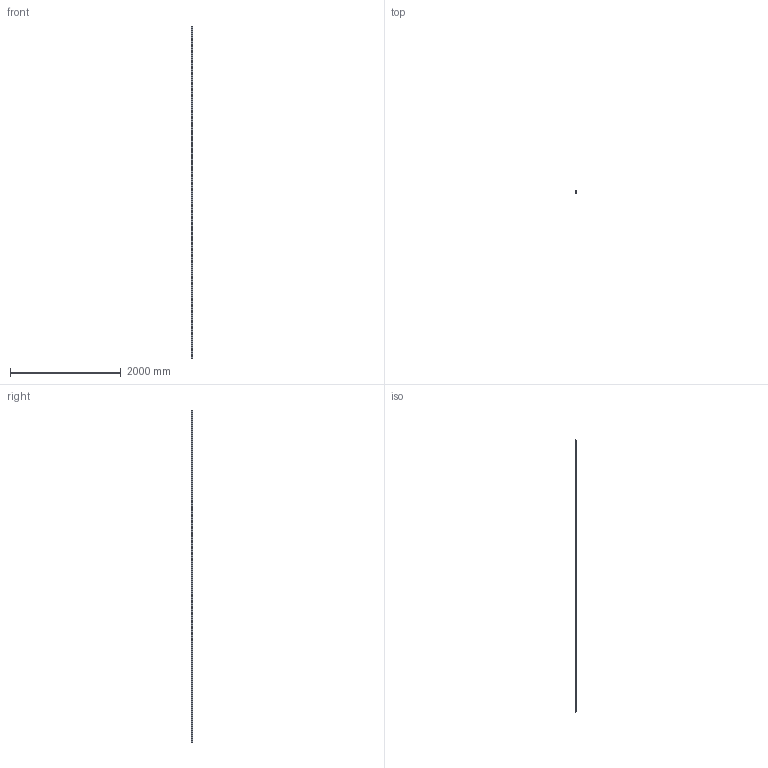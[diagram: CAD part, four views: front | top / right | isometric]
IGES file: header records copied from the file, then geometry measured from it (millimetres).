
Start section: SolidWorks IGES file using analytic representation for surfaces
Global section: file name: D:\SOLIDWORKS PROEKTI\freelance cnc cat\CETVRTA SERIJA\SBR\SBR12.IGS; native system: SolidWorks 2016; preprocessor: SolidWorks 2016; author: User; date: 170811.200021; units: millimetre
Bounding box: 34 x 26.46 x 6000 mm (x, y, z)
Surface area: 744855.3 mm2 (no closed solid volume)
Topology: 0 solids, 0 shells, 1520 faces, 27925 edges, 32014 vertices
Faces by surface type: revolution 998, bspline 522
